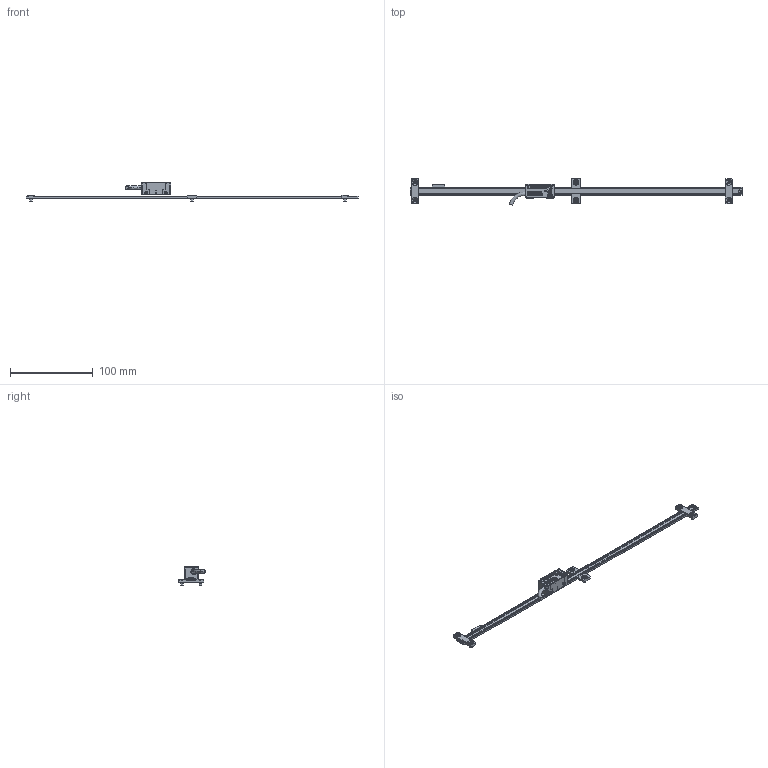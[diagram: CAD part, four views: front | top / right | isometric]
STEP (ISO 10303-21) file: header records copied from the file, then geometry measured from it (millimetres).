
FILE_DESCRIPTION (( 'STEP AP203' ), '1' );
FILE_NAME ('8´øµ¼¹ìRX2.STEP', '2024-08-27T05:02:34', ( '' ), ( '' ), 'SwSTEP 2.0', 'SolidWorks 2024', '' );
FILE_SCHEMA (( 'CONFIG_CONTROL_DESIGN' ));
Length unit declared in the file: millimetre
Products named in the file (11): 8mm 钢栅尺导轨; cross recessed countersunk head screws gb2_GB_CROSS_SCREWS_TYPE10 M3X6-4.35-H1-N; 20230426-001-01 端压板8; 导线; RX2-LMT-M 零位选择磁铁; LM001-041-01 压板; RX2 读数头; pvc tie mo-06-2weimaRX2R; 8栅尺; 8带导轨RX2; Rx2 读数头壳体 网站版SLDPRT
Assembly tree (19 placements, depth 3):
  8带导轨RX2
    8mm 钢栅尺导轨  x2
    LM001-041-01 压板  x2
    cross recessed countersunk head screws gb2_GB_CROSS_SCREWS_TYPE10 M3X6-4.35-H1-N  x6
    8栅尺  x2
    RX2-LMT-M 零位选择磁铁
    20230426-001-01 端压板8  x2
    RX2 读数头
      导线
      pvc tie mo-06-2weimaRX2R
    Rx2 读数头壳体 网站版SLDPRT
Bounding box: 402 x 31.81 x 22.15 mm (x, y, z)
Volume: 17649.6 mm3; surface area: 34738.1 mm2
Topology: 29 solids, 29 shells, 1450 faces, 3881 edges, 2568 vertices
Faces by surface type: plane 939, bspline 269, cylinder 212, cone 30
Entity records: 51598 total; most frequent: CARTESIAN_POINT 21391, ORIENTED_EDGE 6492, DIRECTION 4898, EDGE_CURVE 3246, LINE 2438, VECTOR 2438, VERTEX_POINT 2156, EDGE_LOOP 1324
